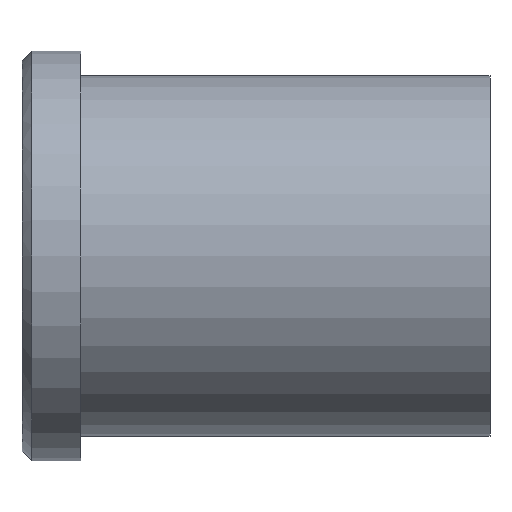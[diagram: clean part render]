
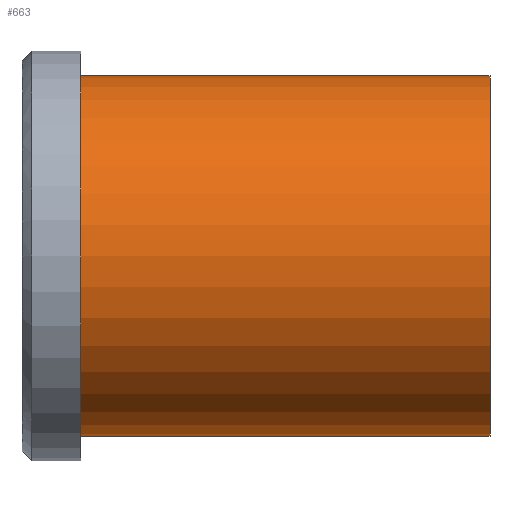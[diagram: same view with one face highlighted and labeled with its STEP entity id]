
A CAD part, front view. The second image highlights one B-rep face of the part: STEP entity #663.
In plain terms, the highlighted cylindrical face has radius 37 mm (diameter 74 mm), a partial arc.
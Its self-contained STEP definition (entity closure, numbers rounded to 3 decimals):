
#501=CARTESIAN_POINT('Vertex',(0.,0.,-37.)) ;
#506=CARTESIAN_POINT('Axis2P3D Location',(0.,0.,0.)) ;
#510=CARTESIAN_POINT('Vertex',(0.,-37.,0.)) ;
#513=CARTESIAN_POINT('Axis2P3D Location',(0.,0.,0.)) ;
#517=CARTESIAN_POINT('Vertex',(0.,0.,37.)) ;
#603=CARTESIAN_POINT('Line Origine',(84.,0.,37.)) ;
#607=CARTESIAN_POINT('Vertex',(84.,0.,37.)) ;
#621=CARTESIAN_POINT('Vertex',(84.,0.,-37.)) ;
#624=CARTESIAN_POINT('Line Origine',(84.,0.,-37.)) ;
#638=CARTESIAN_POINT('Axis2P3D Location',(84.,0.,0.)) ;
#643=CARTESIAN_POINT('Axis2P3D Location',(84.,0.,0.)) ;
#647=CARTESIAN_POINT('Vertex',(84.,-37.,0.)) ;
#650=CARTESIAN_POINT('Axis2P3D Location',(84.,0.,0.)) ;
#507=DIRECTION('Axis2P3D Direction',(1.,0.,-0.)) ;
#514=DIRECTION('Axis2P3D Direction',(1.,0.,-0.)) ;
#604=DIRECTION('Vector Direction',(-1.,0.,0.)) ;
#625=DIRECTION('Vector Direction',(-1.,0.,0.)) ;
#639=DIRECTION('Axis2P3D Direction',(-1.,-0.,-0.)) ;
#640=DIRECTION('Axis2P3D XDirection',(0.,0.,-1.)) ;
#644=DIRECTION('Axis2P3D Direction',(-1.,-0.,-0.)) ;
#651=DIRECTION('Axis2P3D Direction',(-1.,-0.,-0.)) ;
#508=AXIS2_PLACEMENT_3D('Circle Axis2P3D',#506,#507,$) ;
#515=AXIS2_PLACEMENT_3D('Circle Axis2P3D',#513,#514,$) ;
#641=AXIS2_PLACEMENT_3D('Cylinder Axis2P3D',#638,#639,#640) ;
#645=AXIS2_PLACEMENT_3D('Circle Axis2P3D',#643,#644,$) ;
#652=AXIS2_PLACEMENT_3D('Circle Axis2P3D',#650,#651,$) ;
#656=ORIENTED_EDGE('',*,*,#628,.T.) ;
#657=ORIENTED_EDGE('',*,*,#649,.F.) ;
#658=ORIENTED_EDGE('',*,*,#654,.F.) ;
#659=ORIENTED_EDGE('',*,*,#609,.T.) ;
#660=ORIENTED_EDGE('',*,*,#519,.T.) ;
#661=ORIENTED_EDGE('',*,*,#512,.T.) ;
#605=VECTOR('Line Direction',#604,1.) ;
#626=VECTOR('Line Direction',#625,1.) ;
#663=ADVANCED_FACE('353-60x96',(#662),#642,.T.) ;
#509=CIRCLE('generated circle',#508,37.) ;
#516=CIRCLE('generated circle',#515,37.) ;
#646=CIRCLE('generated circle',#645,37.) ;
#653=CIRCLE('generated circle',#652,37.) ;
#642=CYLINDRICAL_SURFACE('generated cylinder',#641,37.) ;
#512=EDGE_CURVE('',#511,#502,#509,.T.) ;
#519=EDGE_CURVE('',#518,#511,#516,.T.) ;
#609=EDGE_CURVE('',#608,#518,#606,.T.) ;
#628=EDGE_CURVE('',#502,#622,#627,.F.) ;
#649=EDGE_CURVE('',#648,#622,#646,.F.) ;
#654=EDGE_CURVE('',#608,#648,#653,.F.) ;
#655=EDGE_LOOP('',(#656,#657,#658,#659,#660,#661)) ;
#662=FACE_OUTER_BOUND('',#655,.T.) ;
#606=LINE('Line',#603,#605) ;
#627=LINE('Line',#624,#626) ;
#502=VERTEX_POINT('',#501) ;
#511=VERTEX_POINT('',#510) ;
#518=VERTEX_POINT('',#517) ;
#608=VERTEX_POINT('',#607) ;
#622=VERTEX_POINT('',#621) ;
#648=VERTEX_POINT('',#647) ;
